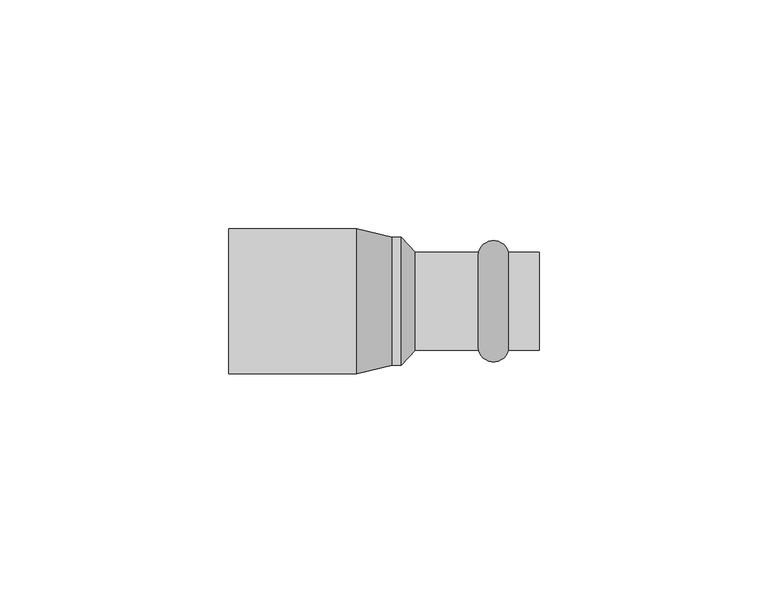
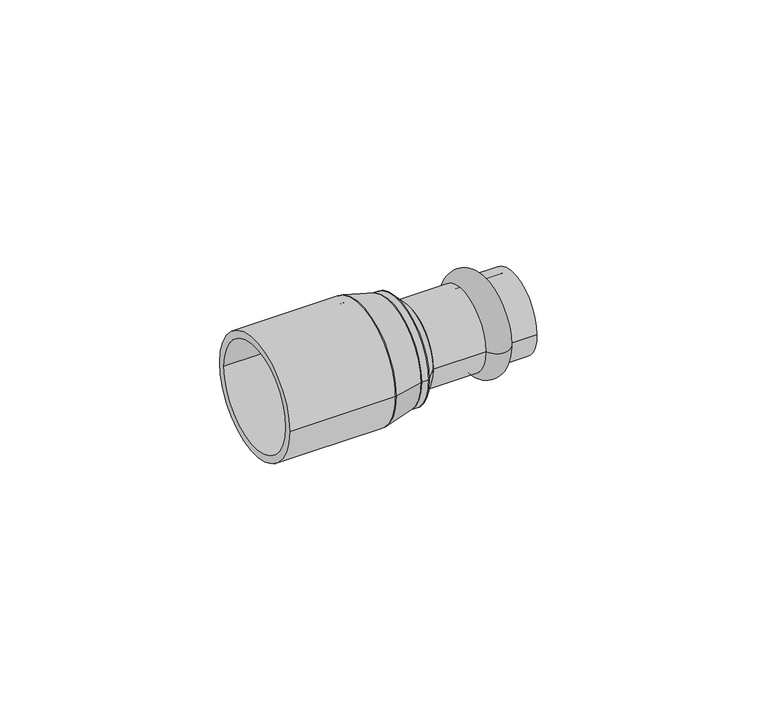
"""IFC4 building model written with IfcOpenShell, lengths in millimetres: pipe fitting geometry, VALTEC_VTi.905.I_Вставка переходная_Нержавеющая сталь : VTi.905.I."""

import ifcopenshell
import ifcopenshell.guid

model = None  # the IFC model being written
_history = None  # IfcOwnerHistory: only IFC2X3 demands one
_inside = {}  # id of a spatial element -> (the spatial element, [elements in it])
_under = {}  # id of a project, library or spatial element -> (it, [spatial elements below it])
_declared = {}  # id of a project -> (the project, [libraries it declares])
_typed = {}  # id of a type object -> (the type object, [elements of that type])
_made_of = {}  # id of a material, layer set ... -> (it, [elements and type objects made of it])


def new_model(schema):
    """Start an empty IFC model of exactly this schema.

    Asked for "IFC4X3", IfcOpenShell would pick the latest addendum, in which some entities
    have other attributes; the version numbers below select the first issue.
    IFC2X3 requires an IfcOwnerHistory on every rooted entity: one is made here for all.
    """
    global model, _history
    if schema == "IFC4X3":
        model = ifcopenshell.file(schema_version=(4, 3, 0, 0))
    else:
        model = ifcopenshell.file(schema=schema)
    _inside.clear()
    _under.clear()
    _declared.clear()
    _typed.clear()
    _made_of.clear()
    _history = None
    if model.schema == "IFC2X3":
        org = make("IfcOrganization", Name="unknown")
        user = make(
            "IfcPersonAndOrganization",
            ThePerson=make("IfcPerson", FamilyName="unknown"),
            TheOrganization=org,
        )
        app = make(
            "IfcApplication",
            ApplicationDeveloper=org,
            Version="unknown",
            ApplicationFullName="unknown",
            ApplicationIdentifier="unknown",
        )
        _history = make(
            "IfcOwnerHistory",
            OwningUser=user,
            OwningApplication=app,
            ChangeAction="ADDED",
            CreationDate=0,
        )
    return model


def make(cls, **values):
    """One entity of the class cls with the attributes given. An attribute that is None is left unset."""
    return model.create_entity(
        cls, **{name: value for name, value in values.items() if value is not None}
    )


def rooted(cls, **values):
    """An entity with a GlobalId (a new one), such as an element, a storey or a relation."""
    return make(cls, GlobalId=ifcopenshell.guid.new(), OwnerHistory=_history, **values)


def si_unit(unit_type, name, prefix=None):
    """IfcSIUnit, for example si_unit("LENGTHUNIT", "METRE", prefix="MILLI")."""
    return make("IfcSIUnit", UnitType=unit_type, Prefix=prefix, Name=name)


def assignment(units):
    """IfcUnitAssignment: the units of a project."""
    return None if units is None else make("IfcUnitAssignment", Units=units)


def point(xyz):
    """IfcCartesianPoint."""
    return None if xyz is None else make("IfcCartesianPoint", Coordinates=xyz)


def direction(xyz):
    """IfcDirection."""
    return None if xyz is None else make("IfcDirection", DirectionRatios=xyz)


def frame(location, z_axis=None, x_axis=None):
    """IfcAxis2Placement3D, a coordinate frame: its origin and axes. An axis left out is left unset."""
    return make(
        "IfcAxis2Placement3D",
        Location=point(location),
        Axis=direction(z_axis),
        RefDirection=direction(x_axis),
    )


def frame_2d(location, x_axis=None):
    """IfcAxis2Placement2D, a coordinate frame in the plane: its origin and x axis."""
    return make(
        "IfcAxis2Placement2D", Location=point(location), RefDirection=direction(x_axis)
    )


def origin():
    """The frame at (0, 0, 0) with its axes left unset."""
    return frame((0.0, 0.0, 0.0))


def origin_2d():
    """The frame at (0, 0) in the plane with its x axis left unset."""
    return frame_2d((0.0, 0.0))


def place(relative_to, where):
    """IfcLocalPlacement: puts the frame where relative to a parent placement (None: the world)."""
    return make(
        "IfcLocalPlacement", PlacementRelTo=relative_to, RelativePlacement=where
    )


def context(
    kind, dimensions, precision=None, world=None, true_north=None, identifier=None
):
    """IfcGeometricRepresentationContext, for example the 3D "Model" context."""
    return make(
        "IfcGeometricRepresentationContext",
        ContextIdentifier=identifier,
        ContextType=kind,
        CoordinateSpaceDimension=dimensions,
        Precision=precision,
        WorldCoordinateSystem=world,
        TrueNorth=true_north,
    )


def project(units=None, contexts=None):
    """IfcProject with its units and contexts."""
    return rooted(
        "IfcProject",
        Name="project",
        RepresentationContexts=contexts,
        UnitsInContext=assignment(units),
    )


def spatial(cls, under=None, at=None, **own):
    """A site, building, storey or space (cls), placed at a placement, below another one or the project."""
    s = rooted(cls, ObjectPlacement=at, **own)
    if under is not None:
        _under.setdefault(under.id(), (under, []))[1].append(s)
    return s


def polyline(points):
    """IfcPolyline through the points."""
    return make("IfcPolyline", Points=[point(p) for p in points])


def circle_curve(where, radius):
    """IfcCircle in the frame where."""
    return make("IfcCircle", Position=where, Radius=radius)


def ellipse_curve(where, semi_axis1, semi_axis2):
    """IfcEllipse in the frame where."""
    return make(
        "IfcEllipse", Position=where, SemiAxis1=semi_axis1, SemiAxis2=semi_axis2
    )


def trimmed(basis, trim1, trim2, sense, master):
    """IfcTrimmedCurve: the piece of a basis curve between two trims."""
    return make(
        "IfcTrimmedCurve",
        BasisCurve=basis,
        Trim1=trim1,
        Trim2=trim2,
        SenseAgreement=sense,
        MasterRepresentation=master,
    )


def segment(curve, same_sense, transition):
    """IfcCompositeCurveSegment."""
    return make(
        "IfcCompositeCurveSegment",
        Transition=transition,
        SameSense=same_sense,
        ParentCurve=curve,
    )


def composite_curve(segments, self_intersect=None):
    """IfcCompositeCurve: segments joined end to end."""
    return make("IfcCompositeCurve", Segments=segments, SelfIntersect=self_intersect)


def outline(outer, holes=None, kind="AREA"):
    """IfcArbitraryClosedProfileDef: a profile drawn as a closed curve; with holes, ...WithVoids."""
    if holes is None:
        return make("IfcArbitraryClosedProfileDef", ProfileType=kind, OuterCurve=outer)
    return make(
        "IfcArbitraryProfileDefWithVoids",
        ProfileType=kind,
        OuterCurve=outer,
        InnerCurves=holes,
    )


def extrude(swept, where, along, depth):
    """IfcExtrudedAreaSolid: the profile swept, set in the frame where, extruded along a direction by depth."""
    return make(
        "IfcExtrudedAreaSolid",
        SweptArea=swept,
        Position=where,
        ExtrudedDirection=direction(along),
        Depth=depth,
    )


def shape(context_of_items, identifier, shape_type, items):
    """IfcShapeRepresentation: the items that make up one representation, for example the "Body"."""
    return make(
        "IfcShapeRepresentation",
        ContextOfItems=context_of_items,
        RepresentationIdentifier=identifier,
        RepresentationType=shape_type,
        Items=items,
    )


def source(mapping_origin, context_of_items, identifier, shape_type, items):
    """IfcRepresentationMap: a shape defined once, which mapped items show again and again."""
    return make(
        "IfcRepresentationMap",
        MappingOrigin=mapping_origin,
        MappedRepresentation=shape(context_of_items, identifier, shape_type, items),
    )


def transform(
    local_origin,
    x_axis=None,
    y_axis=None,
    z_axis=None,
    scale=None,
    scale2=None,
    scale3=None,
    uniform=True,
):
    """IfcCartesianTransformationOperator3D, or its non-uniform kind. x_axis, y_axis, z_axis: its Axis1, 2, 3."""
    if uniform:
        return make(
            "IfcCartesianTransformationOperator3D",
            Axis1=direction(x_axis),
            Axis2=direction(y_axis),
            LocalOrigin=point(local_origin),
            Scale=scale,
            Axis3=direction(z_axis),
        )
    return make(
        "IfcCartesianTransformationOperator3DnonUniform",
        Axis1=direction(x_axis),
        Axis2=direction(y_axis),
        LocalOrigin=point(local_origin),
        Scale=scale,
        Axis3=direction(z_axis),
        Scale2=scale2,
        Scale3=scale3,
    )


def mapped(mapping_source, mapping_target):
    """IfcMappedItem: shows the shape of a source again, moved by a transform."""
    return make(
        "IfcMappedItem", MappingSource=mapping_source, MappingTarget=mapping_target
    )


def made_of(thing, what):
    """Note that an element or type object is made of a material, layer set ...; save() writes the relation."""
    if what is not None:
        _made_of.setdefault(what.id(), (what, []))[1].append(thing)
    return thing


def element(
    cls,
    number,
    at=None,
    inside=None,
    cuts=None,
    type_object=None,
    material=None,
    context=None,
    identifier="Body",
    shape_type=None,
    held_by="IfcProductDefinitionShape",
    body=None,
    shapes=None,
    **own,
):
    """One element of the class cls, such as IfcWall. Its Tag is "e" and its number.

    at: its placement. inside: the storey or other place that contains it. cuts: it is an
    opening in that element (IfcRelVoidsElement). A single representation is given by context,
    identifier, shape_type and body (its items); several are given by shapes. held_by: the class
    of the entity that holds the representations. save() writes the other relations.
    """
    e = rooted(cls, Tag="e%d" % number, ObjectPlacement=at, **own)
    if body is not None:
        shapes = [shape(context, identifier, shape_type, body)]
    if shapes is not None:
        e.Representation = make(held_by, Representations=shapes)
    if inside is not None:
        _inside.setdefault(inside.id(), (inside, []))[1].append(e)
    if cuts is not None:
        rooted(
            "IfcRelVoidsElement", RelatingBuildingElement=cuts, RelatedOpeningElement=e
        )
    if type_object is not None:
        _typed.setdefault(type_object.id(), (type_object, []))[1].append(e)
    return made_of(e, material)


def aggregate(whole, parts):
    """IfcRelAggregates: a whole, such as a stair, and the parts it consists of."""
    return rooted("IfcRelAggregates", RelatingObject=whole, RelatedObjects=parts)


def save(model, path):
    """Write the relations noted so far, then the file.

    IfcRelAggregates (storeys below a building ...), IfcRelContainedInSpatialStructure (elements
    in a storey), IfcRelDefinesByType, IfcRelAssociatesMaterial and IfcRelDeclares: one each for
    every whole, place, type object, material and project.
    """
    for whole, parts in _under.values():
        aggregate(whole, parts)
    for where, things in _inside.values():
        rooted(
            "IfcRelContainedInSpatialStructure",
            RelatedElements=things,
            RelatingStructure=where,
        )
    for kind, things in _typed.values():
        rooted("IfcRelDefinesByType", RelatedObjects=things, RelatingType=kind)
    for what, things in _made_of.values():
        rooted("IfcRelAssociatesMaterial", RelatedObjects=things, RelatingMaterial=what)
    for by, libraries in _declared.values():
        rooted("IfcRelDeclares", RelatingContext=by, RelatedDefinitions=libraries)
    model.write(path)


def plane_surface(at):
    """IfcPlane: the flat surface through the origin of the frame at, square to its z axis."""
    return make("IfcPlane", Position=at)


def cylinder_surface(at, radius):
    """IfcCylindricalSurface: all points at the distance radius from the z axis of the frame at."""
    return make("IfcCylindricalSurface", Position=at, Radius=radius)


def revolved_surface(curve, axis_point, axis_direction):
    """IfcSurfaceOfRevolution: the curve turned about the line through axis_point along axis_direction."""
    return make(
        "IfcSurfaceOfRevolution",
        SweptCurve=make("IfcArbitraryOpenProfileDef", ProfileType="CURVE", Curve=curve),
        AxisPosition=make("IfcAxis1Placement", Location=point(axis_point), Axis=direction(axis_direction)),
    )


def advanced_brep(points, edges, surfaces, faces):
    """IfcAdvancedBrep: a solid bounded by faces that lie on surfaces and meet in shared edges.

    An edge is (start, end): straight between two places in points (the first is 0);
    or (start, end, curve); or (start, end, curve, False) where it runs against its curve.
    A face is (place in surfaces, loops), or (place, loops, False) where it looks against
    its surface's normal. A loop lists edges by number (the first is 1), with a minus sign
    where the edge is run from its end to its start. The first loop is the outer one.
    """
    corners = [point(p) for p in points]
    vertices = [make("IfcVertexPoint", VertexGeometry=c) for c in corners]
    made = []
    for start, end, *more in edges:
        made.append(
            make(
                "IfcEdgeCurve",
                EdgeStart=vertices[start],
                EdgeEnd=vertices[end],
                EdgeGeometry=more[0] if more else make("IfcPolyline", Points=[corners[start], corners[end]]),
                SameSense=more[1] if len(more) > 1 else True,
            )
        )
    hull = []
    for where, loops, *sense in faces:
        bounds = []
        for j, loop in enumerate(loops):
            ring = [make("IfcOrientedEdge", EdgeElement=made[abs(k) - 1], Orientation=k > 0) for k in loop]
            bounds.append(
                make(
                    "IfcFaceOuterBound" if j == 0 else "IfcFaceBound",
                    Bound=make("IfcEdgeLoop", EdgeList=ring),
                    Orientation=True,
                )
            )
        hull.append(make("IfcAdvancedFace", Bounds=bounds, FaceSurface=surfaces[where], SameSense=sense[0] if sense else True))
    return make("IfcAdvancedBrep", Outer=make("IfcClosedShell", CfsFaces=hull))


def pipe_fitting_511b1e4a(model_context):
    return source(origin(), model_context, "Body", "SolidModel", [
        advanced_brep(
        [(27.2287193, -10.75, 0.0), (20.6712807, -10.75, 0.0), (20.6712807, 10.75, 0.0), (27.2287193, 10.75, 0.0), (34.0, -10.75, 0.0), (34.0, 10.75, 0.0), (34.0, -9.0, 0.0), (34.0, 9.0, 0.0), (6.8, -9.0, 0.0), (6.8, 9.0, 0.0), (6.8, -10.75, 0.0), (6.8, 10.75, 0.0)],
        [
            (0, 1, circle_curve(frame((23.95, -9.85, 0.0), z_axis=(0.0, 0.0, -1.0), x_axis=(-1.0, 0.0, 0.0)), 3.4)),
            (1, 2, circle_curve(frame((20.6712807, 0.0, 0.0), z_axis=(1.0, 0.0, 0.0), x_axis=(0.0, 1.0, 0.0)), 10.75)),
            (2, 3, circle_curve(frame((23.95, 9.85, 0.0), z_axis=(0.0, 0.0, -1.0), x_axis=(-1.0, 0.0, 0.0)), 3.4)),
            (3, 0, circle_curve(frame((27.2287193, 0.0, 0.0), z_axis=(-1.0, 0.0, 0.0), x_axis=(0.0, 1.0, 0.0)), 10.75)),
            (2, 1, circle_curve(frame((20.6712807, 0.0, 0.0), z_axis=(1.0, 0.0, 0.0), x_axis=(0.0, 1.0, 0.0)), 10.75)),
            (0, 3, circle_curve(frame((27.2287193, 0.0, 0.0), z_axis=(-1.0, 0.0, 0.0), x_axis=(0.0, 1.0, 0.0)), 10.75)),
            (4, 0),
            (3, 5),
            (5, 4, circle_curve(frame((34.0, 0.0, 0.0), z_axis=(-1.0, 0.0, 0.0), x_axis=(0.0, 1.0, 0.0)), 10.75)),
            (4, 5, circle_curve(frame((34.0, 0.0, 0.0), z_axis=(-1.0, 0.0, 0.0), x_axis=(0.0, 1.0, 0.0)), 10.75)),
            (6, 4),
            (5, 7),
            (7, 6, circle_curve(frame((34.0, 0.0, 0.0), z_axis=(-1.0, 0.0, 0.0), x_axis=(0.0, 1.0, 0.0)), 9.0)),
            (6, 7, circle_curve(frame((34.0, 0.0, 0.0), z_axis=(-1.0, 0.0, 0.0), x_axis=(0.0, 1.0, 0.0)), 9.0)),
            (8, 6),
            (7, 9),
            (9, 8, circle_curve(frame((6.8, 0.0, 0.0), z_axis=(-1.0, 0.0, 0.0), x_axis=(0.0, 1.0, 0.0)), 9.0)),
            (8, 9, circle_curve(frame((6.8, 0.0, 0.0), z_axis=(-1.0, 0.0, 0.0), x_axis=(0.0, 1.0, 0.0)), 9.0)),
            (10, 8),
            (9, 11),
            (11, 10, circle_curve(frame((6.8, 0.0, 0.0), z_axis=(-1.0, 0.0, 0.0), x_axis=(0.0, 1.0, 0.0)), 10.75)),
            (10, 11, circle_curve(frame((6.8, 0.0, 0.0), z_axis=(-1.0, 0.0, 0.0), x_axis=(0.0, 1.0, 0.0)), 10.75)),
            (1, 10),
            (11, 2),
        ],
        [
            revolved_surface(trimmed(ellipse_curve(frame((23.95, 9.85, 0.0), z_axis=(0.0, 0.0, -1.0), x_axis=(-1.0, 0.0, 0.0)), 3.4, 3.4), [point((20.6712807, 10.75, 0.0))], [point((27.2287193, 10.75, 0.0))], True, "CARTESIAN"), (37.5364426, 0.0, 0.0), (1.0, 0.0, 0.0)),
            cylinder_surface(frame((37.5364426, 0.0, 0.0), z_axis=(1.0, 0.0, 0.0), x_axis=(0.0, 1.0, 0.0)), 10.75),
            plane_surface(frame((34.0, 0.0, 0.0), z_axis=(1.0, 0.0, 0.0), x_axis=(0.0, 1.0, 0.0))),
            revolved_surface(polyline([(34.0, 9.0, 0.0), (6.800000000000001, 9.0, 0.0)]), (37.5364426, 0.0, 0.0), (1.0, 0.0, 0.0)),
            plane_surface(frame((6.8, 0.0, 0.0), z_axis=(-1.0, 0.0, 0.0), x_axis=(0.0, 1.0, 0.0))),
        ],
        [
            (0, [[1, 2, 3, 4]]),
            (0, [[-3, 5, -1, 6]]),
            (1, [[7, -4, 8, 9]]),
            (1, [[-8, -6, -7, 10]]),
            (2, [[11, -9, 12, 13]]),
            (2, [[-12, -10, -11, 14]]),
            (3, [[15, -13, 16, 17]]),
            (3, [[-16, -14, -15, 18]]),
            (4, [[19, -17, 20, 21]]),
            (4, [[-20, -18, -19, 22]]),
            (1, [[23, -21, 24, -2]]),
            (1, [[-24, -22, -23, -5]]),
        ],
    ),
        advanced_brep(
        [(3.8, -14.0, 0.0), (3.8, 14.0, 0.0), (6.8, -10.75, 0.0), (6.8, 10.75, 0.0)],
        [
            (0, 1, circle_curve(frame((3.8, 0.0, 0.0), z_axis=(-1.0, 0.0, 0.0), x_axis=(0.0, -1.0, 0.0)), 14.0)),
            (1, 0, circle_curve(frame((3.8, 0.0, 0.0), z_axis=(-1.0, 0.0, 0.0), x_axis=(0.0, 1.0, 0.0)), 14.0)),
            (2, 3, circle_curve(frame((6.8, 0.0, 0.0), z_axis=(1.0, 0.0, 0.0), x_axis=(0.0, 1.0, 0.0)), 10.75)),
            (3, 2, circle_curve(frame((6.8, 0.0, 0.0), z_axis=(1.0, 0.0, 0.0), x_axis=(0.0, -1.0, 0.0)), 10.75)),
            (2, 0),
            (1, 3),
        ],
        [
            plane_surface(frame((3.8, 0.0, 0.0), z_axis=(-1.0, 0.0, 0.0), x_axis=(0.0, 0.0, 1.0))),
            plane_surface(frame((6.8, 0.0, 0.0), z_axis=(1.0, 0.0, 0.0), x_axis=(0.0, 0.0, 1.0))),
            revolved_surface(polyline([(6.800000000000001, -10.749999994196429, 0.0), (3.8000000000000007, -14.0, 0.0)]), (16.7230769, 0.0, 0.0), (-1.0, 0.0, 0.0)),
            revolved_surface(polyline([(6.800000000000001, 10.749999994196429, 0.0), (3.8000000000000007, 14.0, 0.0)]), (16.7230769, 0.0, 0.0), (-1.0, 0.0, 0.0)),
        ],
        [
            (0, [[1, 2]]),
            (1, [[3, 4]]),
            (2, [[-3, 5, -2, 6]]),
            (3, [[-4, -6, -1, -5]]),
        ],
    ),
        extrude(outline(composite_curve([segment(trimmed(circle_curve(origin_2d(), 14.0), [point((-14.0, 0.0))], [point((14.0, 0.0))], False, "CARTESIAN"), True, "CONTINUOUS"), segment(trimmed(circle_curve(origin_2d(), 14.0), [point((14.0, 0.0))], [point((-14.0, 0.0))], False, "CARTESIAN"), True, "CONTINUOUS")], self_intersect=False)), frame((1.8, 0.0, 0.0), z_axis=(1.0, 0.0, 0.0), x_axis=(0.0, 1.0, 0.0)), (0.0, 0.0, 1.0), 2.0),
        advanced_brep(
        [(1.8, -14.0, 0.0), (1.8, 14.0, 0.0), (-6.0, -15.9, 0.0), (-6.0, 15.9, 0.0)],
        [
            (0, 1, circle_curve(frame((1.8, 0.0, 0.0), z_axis=(1.0, 0.0, 0.0), x_axis=(0.0, -1.0, 0.0)), 14.0)),
            (1, 0, circle_curve(frame((1.8, 0.0, 0.0), z_axis=(1.0, 0.0, 0.0), x_axis=(0.0, 1.0, 0.0)), 14.0)),
            (2, 3, circle_curve(frame((-6.0, 0.0, 0.0), z_axis=(-1.0, 0.0, 0.0), x_axis=(0.0, 1.0, 0.0)), 15.9)),
            (3, 2, circle_curve(frame((-6.0, 0.0, 0.0), z_axis=(-1.0, 0.0, 0.0), x_axis=(0.0, -1.0, 0.0)), 15.9)),
            (3, 1),
            (0, 2),
        ],
        [
            plane_surface(frame((1.8, 0.0, 0.0), z_axis=(1.0, 0.0, 0.0), x_axis=(0.0, 0.0, -1.0))),
            plane_surface(frame((-6.0, 0.0, 0.0), z_axis=(-1.0, 0.0, 0.0), x_axis=(0.0, 0.0, -1.0))),
            revolved_surface(polyline([(1.7999999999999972, -13.9999999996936, 0.0), (-5.999999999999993, -15.9, 0.0)]), (59.2736842, 0.0, 0.0), (-1.0, 0.0, 0.0)),
            revolved_surface(polyline([(1.7999999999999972, 13.9999999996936, 0.0), (-5.999999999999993, 15.9, 0.0)]), (59.2736842, 0.0, 0.0), (-1.0, 0.0, 0.0)),
        ],
        [
            (0, [[1, 2]]),
            (1, [[3, 4]]),
            (2, [[-4, 5, -1, 6]]),
            (3, [[-3, -6, -2, -5]]),
        ],
    ),
        extrude(outline(composite_curve([segment(trimmed(circle_curve(origin_2d(), 15.9), [point((-15.9, 0.0))], [point((15.9, 0.0))], False, "CARTESIAN"), True, "CONTINUOUS"), segment(trimmed(circle_curve(origin_2d(), 15.9), [point((15.9, 0.0))], [point((-15.9, 0.0))], False, "CARTESIAN"), True, "CONTINUOUS")], self_intersect=False), holes=[composite_curve([segment(trimmed(circle_curve(origin_2d(), 14.0), [point((-14.0, 0.0))], [point((14.0, 0.0))], True, "CARTESIAN"), True, "CONTINUOUS"), segment(trimmed(circle_curve(origin_2d(), 14.0), [point((14.0, 0.0))], [point((-14.0, 0.0))], True, "CARTESIAN"), True, "CONTINUOUS")], self_intersect=False)]), frame((-34.0, 0.0, 0.0), z_axis=(1.0, 0.0, 0.0), x_axis=(0.0, 1.0, 0.0)), (0.0, 0.0, 1.0), 28.0),
    ])


if __name__ == "__main__":
    model = new_model("IFC4")
    model_context = context("Model", 3, world=origin())
    ifc_project = project(units=[si_unit("LENGTHUNIT", "METRE", prefix="MILLI")], contexts=[model_context])
    site = spatial("IfcSite", under=ifc_project)
    building = spatial("IfcBuilding", under=site)
    placement = place(None, origin())
    pipe_fitting_shape = pipe_fitting_511b1e4a(model_context)
    element("IfcPipeFitting", 1, ObjectType="VALTEC_VTi.905.I_Вставка переходная_Нержавеющая сталь : VTi.905.I", at=placement, inside=building, context=model_context, shape_type="MappedRepresentation", body=[
        mapped(pipe_fitting_shape, transform((0.0, 0.0, 0.0), x_axis=(1.0, 0.0, 0.0), y_axis=(0.0, 1.0, 0.0), z_axis=(0.0, 0.0, 1.0))),
    ])
    save(model, "model.ifc")
